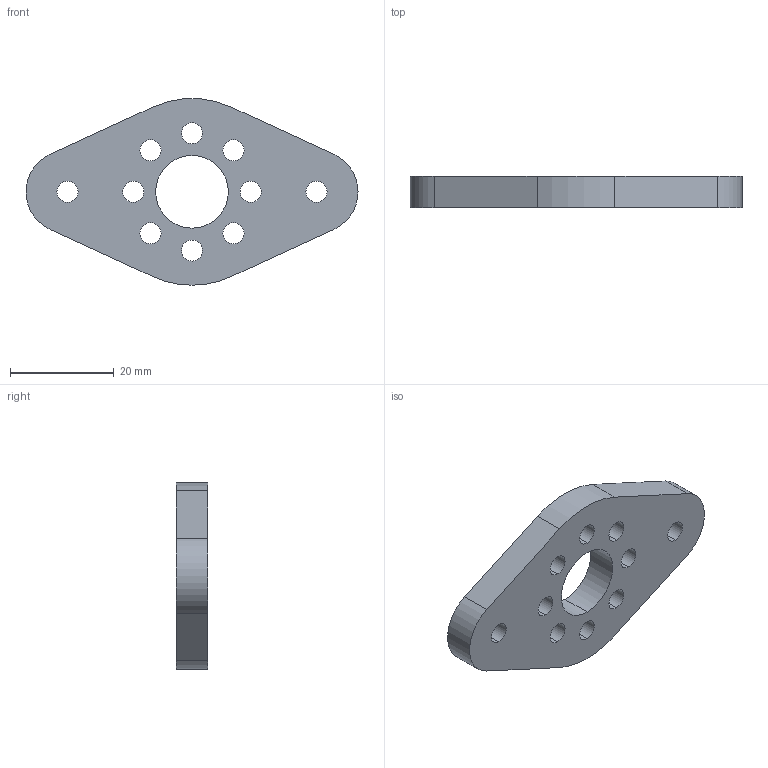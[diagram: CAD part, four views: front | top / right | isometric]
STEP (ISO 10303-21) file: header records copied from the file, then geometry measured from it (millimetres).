
FILE_DESCRIPTION (( 'STEP AP203' ), '1' );
FILE_NAME ('1917-0014-0024.STEP', '2021-05-27T18:30:33', ( '' ), ( '' ), 'SwSTEP 2.0', 'SolidWorks 2016', '' );
FILE_SCHEMA (( 'CONFIG_CONTROL_DESIGN' ));
Length unit declared in the file: millimetre
Products named in the file (1): 1917-0014-0024
Bounding box: 64 x 6 x 35.93 mm (x, y, z)
Volume: 7657.7 mm3; surface area: 4508.2 mm2
Topology: 1 solids, 1 shells, 33 faces, 93 edges, 62 vertices
Faces by surface type: cylinder 27, plane 6
Entity records: 1222 total; most frequent: DIRECTION 215, CARTESIAN_POINT 189, ORIENTED_EDGE 186, EDGE_CURVE 93, AXIS2_PLACEMENT_3D 88, VERTEX_POINT 62, EDGE_LOOP 55, CIRCLE 54
